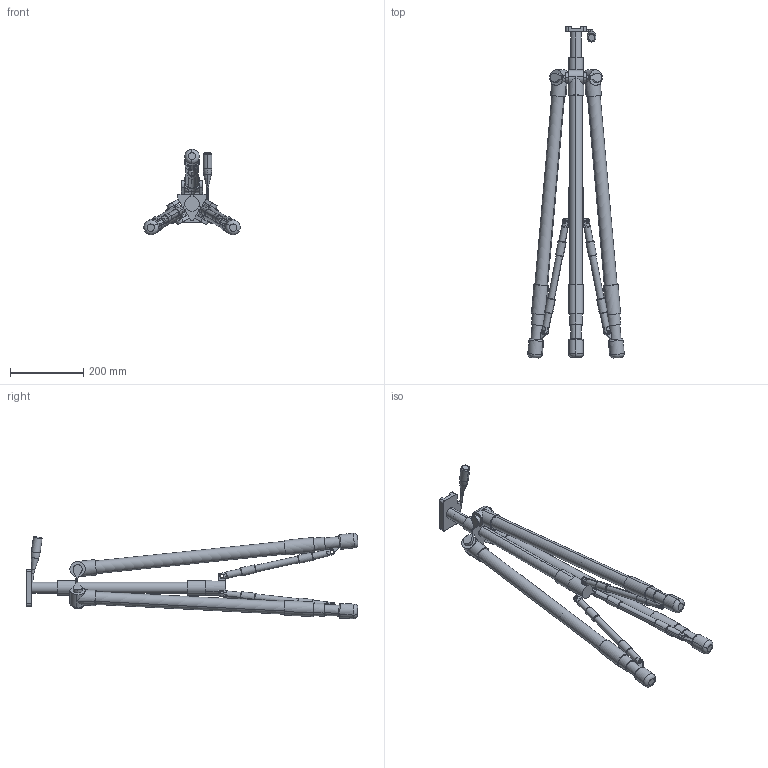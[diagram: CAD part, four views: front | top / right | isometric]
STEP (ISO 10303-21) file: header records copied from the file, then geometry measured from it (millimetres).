
FILE_DESCRIPTION (( 'STEP AP203' ), '1' );
FILE_NAME ('TRIPOD.STEP', '2020-08-13T18:24:40', ( 'user' ), ( '' ), 'SwSTEP 2.0', 'SolidWorks 2018', '' );
FILE_SCHEMA (( 'CONFIG_CONTROL_DESIGN' ));
Length unit declared in the file: millimetre
Products named in the file (6): BODY; CENTER PIECE; FOOT; LEG; LEG SUPPORT; TRIPOD
Assembly tree (11 placements, depth 2):
  TRIPOD
    BODY
    CENTER PIECE
    FOOT  x3
    LEG  x3
    LEG SUPPORT  x3
Bounding box: 263.71 x 907.96 x 233.77 mm (x, y, z)
Volume: 2571095.4 mm3; surface area: 782699.7 mm2
Topology: 11 solids, 11 shells, 459 faces, 1110 edges, 704 vertices
Faces by surface type: cylinder 219, plane 191, torus 47, cone 2
Entity records: 8441 total; most frequent: CARTESIAN_POINT 1442, DIRECTION 1411, ORIENTED_EDGE 1240, EDGE_CURVE 620, AXIS2_PLACEMENT_3D 545, VERTEX_POINT 392, VECTOR 321, LINE 321
